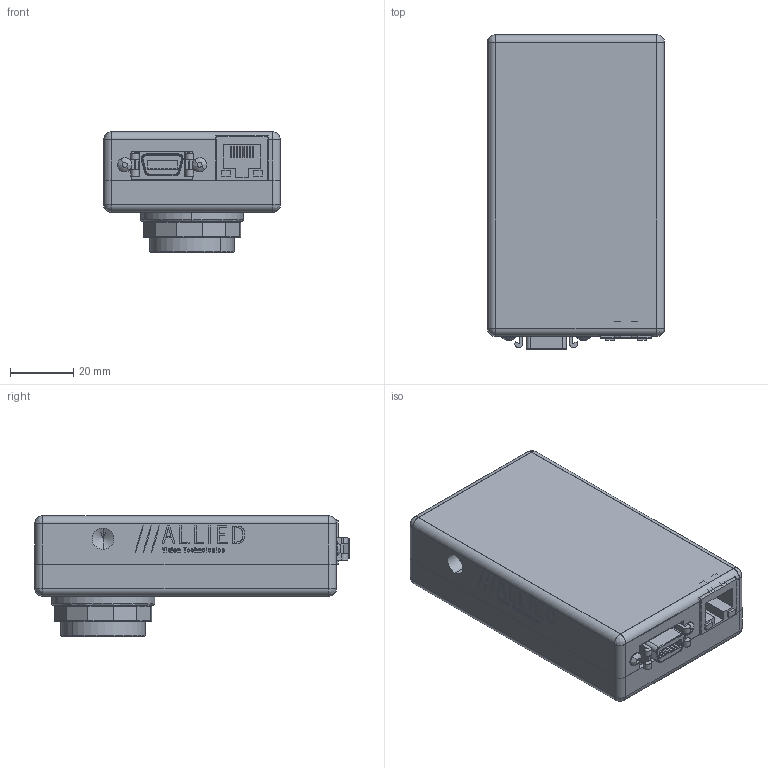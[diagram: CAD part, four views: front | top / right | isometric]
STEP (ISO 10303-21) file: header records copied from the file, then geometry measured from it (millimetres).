
FILE_DESCRIPTION (( 'STEP AP214' ), '1' );
FILE_NAME ('GS650-P.STEP', '2013-07-31T20:24:54', ( '' ), ( '' ), 'SwSTEP 2.0', 'SolidWorks 2013', '' );
FILE_SCHEMA (( 'AUTOMOTIVE_DESIGN' ));
Length unit declared in the file: millimetre
Products named in the file (22): 740084B-GS SERIES LABEL; 110089A-GS FRONT; 140057-SCREW BUTTON SKT CAP M2.5X10 SS; 110090B-GS BACK RA_Default Logo; 140059-EMI GASKET FOR GS; 140056-SCREW SOCKET CAP HEX M2.5X10 BLACK; 02-2210B-GB650-P; 220073-SONY ICX424AL; 140055-WASHER SPRING LOCK M2.5 BLACK; SONY ICX424 BODY; SONY ICX424 WINDOW; GS650-P; 200103B-GB1380-650-PT-RA; 260039-3M 10214-55G3PC; 260036-HALO HFJ11-1G16E-L12RL; 110031A-B EC-CCD LOCKING RING; 110003AC-CV CMOUNT RING; 140027-SCREW BUTTON M3x6 SS; 110078A-GB MOUNT; 110094A-GB CCD GASKET; 140008-washer spring lock #4; 740091-GS650-P LABEL PRINT
Assembly tree (30 placements, depth 4):
  GS650-P
    140055-WASHER SPRING LOCK M2.5 BLACK  x4
    140056-SCREW SOCKET CAP HEX M2.5X10 BLACK  x4
    140059-EMI GASKET FOR GS
    110090B-GS BACK RA_Default Logo
    140057-SCREW BUTTON SKT CAP M2.5X10 SS  x2
    110089A-GS FRONT
    740084B-GS SERIES LABEL
    740091-GS650-P LABEL PRINT
    02-2210B-GB650-P
      140008-washer spring lock #4  x2
      110094A-GB CCD GASKET
      110078A-GB MOUNT
      140027-SCREW BUTTON M3x6 SS  x2
      110003AC-CV CMOUNT RING
      110031A-B EC-CCD LOCKING RING
      200103B-GB1380-650-PT-RA
        260036-HALO HFJ11-1G16E-L12RL
        260039-3M 10214-55G3PC
      220073-SONY ICX424AL
        SONY ICX424 WINDOW
        SONY ICX424 BODY
Bounding box: 55.88 x 99.31 x 38.09 mm (x, y, z)
Volume: 56572.2 mm3; surface area: 72358.7 mm2
Topology: 86 solids, 86 shells, 3584 faces, 9282 edges, 6040 vertices
Faces by surface type: plane 2060, bspline 856, cylinder 466, cone 202
Entity records: 175238 total; most frequent: CARTESIAN_POINT 55826, ORIENTED_EDGE 17932, DIRECTION 13595, EDGE_CURVE 8966, LINE 6217, VECTOR 6217, VERTEX_POINT 5871, EDGE_LOOP 3787
